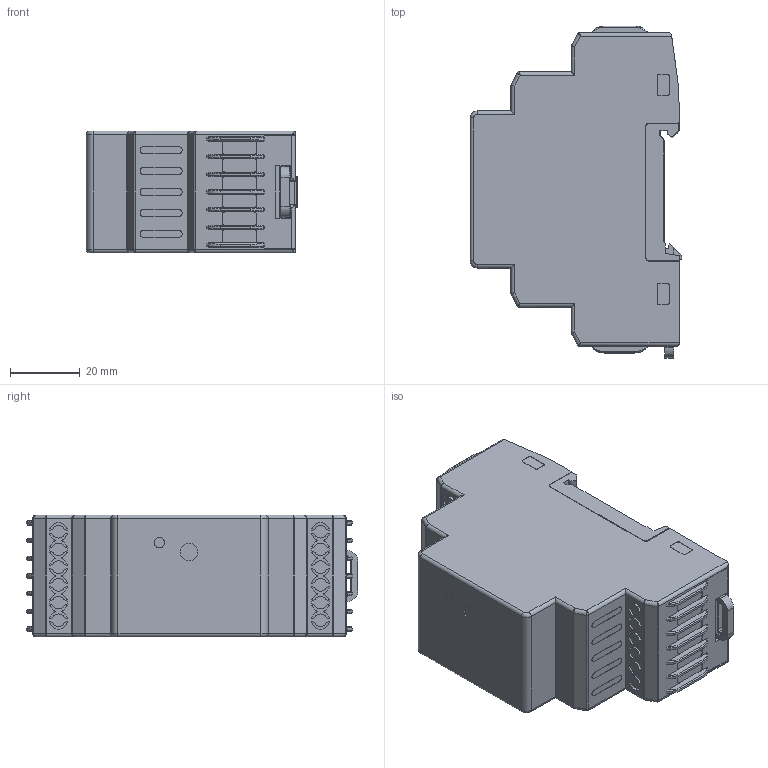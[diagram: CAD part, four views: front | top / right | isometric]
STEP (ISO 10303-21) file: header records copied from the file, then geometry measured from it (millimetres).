
FILE_DESCRIPTION (( 'STEP AP203' ), '1' );
FILE_NAME ('RP2M_Asm_06062020.STEP', '2021-01-05T10:35:06', ( '' ), ( '' ), 'SwSTEP 2.0', 'SolidWorks 2017', '' );
FILE_SCHEMA (( 'CONFIG_CONTROL_DESIGN' ));
Length unit declared in the file: millimetre
Products named in the file (2): CASING_111217; RP2M_Asm_06062020
Assembly tree (1 placements, depth 2):
  RP2M_Asm_06062020
    CASING_111217
Bounding box: 60.73 x 95.24 x 35 mm (x, y, z)
Volume: 150454.3 mm3; surface area: 20720.7 mm2
Topology: 1 solids, 1 shells, 974 faces, 2714 edges, 1735 vertices
Faces by surface type: plane 558, cylinder 188, cone 145, bspline 79, torus 4
Entity records: 31999 total; most frequent: CARTESIAN_POINT 8235, ORIENTED_EDGE 5396, DIRECTION 4327, EDGE_CURVE 2698, VERTEX_POINT 1735, VECTOR 1705, LINE 1705, AXIS2_PLACEMENT_3D 1311
